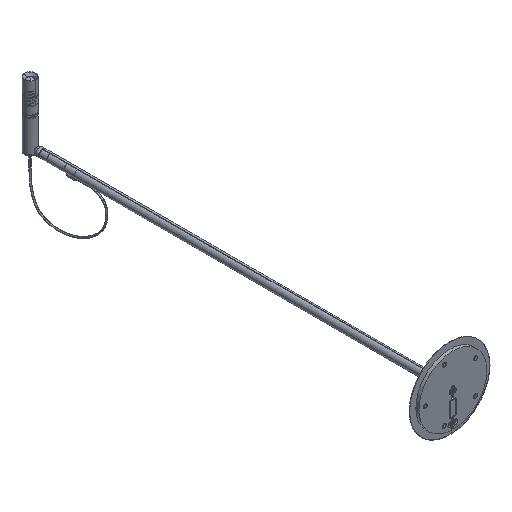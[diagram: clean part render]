
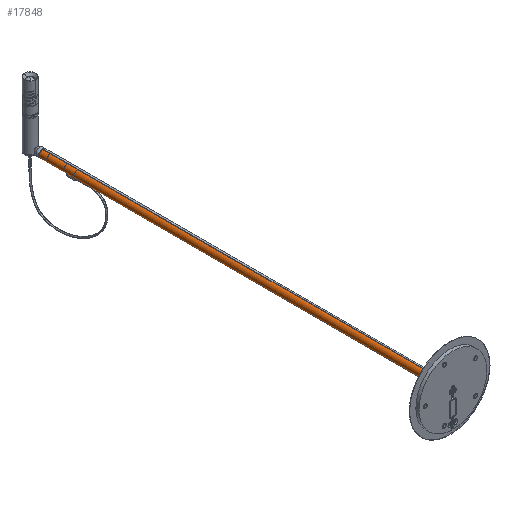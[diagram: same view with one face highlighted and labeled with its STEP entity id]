
A CAD part, isometric view. The second image highlights one B-rep face of the part: STEP entity #17848.
In plain terms, the highlighted cylindrical face has radius 12.5 mm (diameter 25 mm), a partial arc.
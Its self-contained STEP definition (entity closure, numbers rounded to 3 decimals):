
#73 = CARTESIAN_POINT ( 'NONE',  ( 3.888, -105.429, 11.881 ) ) ;
#83 = CARTESIAN_POINT ( 'NONE',  ( 4.1, -1317., 11.808 ) ) ;
#190 = CARTESIAN_POINT ( 'NONE',  ( 2.505, -107.357, 12.249 ) ) ;
#230 = CARTESIAN_POINT ( 'NONE',  ( 0.543, -85.827, 12.491 ) ) ;
#452 = CARTESIAN_POINT ( 'NONE',  ( 0., -1317., 0. ) ) ;
#919 = DIRECTION ( 'NONE',  ( 0., 1., 0. ) ) ;
#1988 = CIRCLE ( 'NONE', #7595, 12.5 ) ;
#2195 = CARTESIAN_POINT ( 'NONE',  ( 0., -1317., -12.5 ) ) ;
#2281 = VECTOR ( 'NONE', #16235, 1000. ) ;
#2623 = ORIENTED_EDGE ( 'NONE', *, *, #30272, .F. ) ;
#2771 = CYLINDRICAL_SURFACE ( 'NONE', #30055, 12.5 ) ;
#2809 = CARTESIAN_POINT ( 'NONE',  ( 1.825, -86.218, 12.369 ) ) ;
#3160 = EDGE_CURVE ( 'NONE', #8093, #16897, #34257, .T. ) ;
#3177 = LINE ( 'NONE', #12557, #30855 ) ;
#3534 = B_SPLINE_CURVE_WITH_KNOTS ( 'NONE', 3,
 ( #18598, #15900, #230, #8290, #10876, #2809, #13554, #21302, #31978, #24371, #24141, #32222, #13320, #21178, #26718, #23918, #29300, #24257 ),
 .UNSPECIFIED., .F., .F.,
 ( 4, 2, 2, 2, 2, 2, 2, 2, 4 ),
 ( 0.006, 0.007, 0.008, 0.009, 0.01, 0.01, 0.011, 0.012, 0.013 ),
 .UNSPECIFIED. ) ;
#3754 = CARTESIAN_POINT ( 'NONE',  ( 4.1, -104.1, 11.808 ) ) ;
#4136 = EDGE_CURVE ( 'NONE', #8093, #34116, #21154, .T. ) ;
#5297 = EDGE_CURVE ( 'NONE', #30318, #16897, #12321, .T. ) ;
#5847 = CARTESIAN_POINT ( 'NONE',  ( 0., 0., -12.5 ) ) ;
#6015 = ORIENTED_EDGE ( 'NONE', *, *, #13354, .T. ) ;
#6635 = VERTEX_POINT ( 'NONE', #31179 ) ;
#6760 = ORIENTED_EDGE ( 'NONE', *, *, #32260, .F. ) ;
#6817 = EDGE_CURVE ( 'NONE', #34527, #19269, #3534, .T. ) ;
#7089 = CARTESIAN_POINT ( 'NONE',  ( 0., -1317., 0. ) ) ;
#7536 = CARTESIAN_POINT ( 'NONE',  ( 0., -1317., -12.5 ) ) ;
#7595 = AXIS2_PLACEMENT_3D ( 'NONE', #14504, #14282, #11582 ) ;
#8093 = VERTEX_POINT ( 'NONE', #23724 ) ;
#8129 = CARTESIAN_POINT ( 'NONE',  ( 3.681, -105.925, 11.946 ) ) ;
#8290 = CARTESIAN_POINT ( 'NONE',  ( 1.07, -85.933, 12.457 ) ) ;
#8959 = DIRECTION ( 'NONE',  ( 0., 0., 1. ) ) ;
#9392 = LINE ( 'NONE', #2195, #2281 ) ;
#9399 = ORIENTED_EDGE ( 'NONE', *, *, #6817, .T. ) ;
#10475 = CARTESIAN_POINT ( 'NONE',  ( 1.821, -107.783, 12.369 ) ) ;
#10717 = FACE_OUTER_BOUND ( 'NONE', #27098, .T. ) ;
#10834 = CARTESIAN_POINT ( 'NONE',  ( 3.555, -106.16, 11.985 ) ) ;
#10876 = CARTESIAN_POINT ( 'NONE',  ( 1.326, -86.011, 12.432 ) ) ;
#11291 = CARTESIAN_POINT ( 'NONE',  ( 0., -108.2, 12.5 ) ) ;
#11582 = DIRECTION ( 'NONE',  ( 0., 0., 1. ) ) ;
#12321 = B_SPLINE_CURVE_WITH_KNOTS ( 'NONE', 3,
 ( #29260, #34795, #32412, #24450, #73, #8129, #10834, #29597, #13514, #26561, #190, #18916, #10475, #15861, #16926, #24675, #16685, #11291 ),
 .UNSPECIFIED., .F., .F.,
 ( 4, 2, 2, 2, 2, 2, 2, 2, 4 ),
 ( 0., 0.001, 0.002, 0.002, 0.003, 0.004, 0.005, 0.006, 0.006 ),
 .UNSPECIFIED. ) ;
#12557 = CARTESIAN_POINT ( 'NONE',  ( 0., -1317., 12.5 ) ) ;
#13320 = CARTESIAN_POINT ( 'NONE',  ( 3.682, -88.077, 11.946 ) ) ;
#13354 = EDGE_CURVE ( 'NONE', #34116, #33495, #9392, .T. ) ;
#13514 = CARTESIAN_POINT ( 'NONE',  ( 3.086, -106.813, 12.115 ) ) ;
#13554 = CARTESIAN_POINT ( 'NONE',  ( 2.061, -86.346, 12.331 ) ) ;
#14282 = DIRECTION ( 'NONE',  ( 0., 1., 0. ) ) ;
#14504 = CARTESIAN_POINT ( 'NONE',  ( 0., 0., 0. ) ) ;
#15861 = CARTESIAN_POINT ( 'NONE',  ( 1.328, -107.988, 12.432 ) ) ;
#15900 = CARTESIAN_POINT ( 'NONE',  ( 0.269, -85.8, 12.5 ) ) ;
#16235 = DIRECTION ( 'NONE',  ( 0., 1., 0. ) ) ;
#16685 = CARTESIAN_POINT ( 'NONE',  ( 0.27, -108.2, 12.5 ) ) ;
#16897 = VERTEX_POINT ( 'NONE', #22637 ) ;
#16926 = CARTESIAN_POINT ( 'NONE',  ( 1.068, -108.068, 12.457 ) ) ;
#17848 = ADVANCED_FACE ( 'Faccia1', ( #10717 ), #2771, .T. ) ;
#18055 = CARTESIAN_POINT ( 'NONE',  ( 0., -85.8, 12.5 ) ) ;
#18598 = CARTESIAN_POINT ( 'NONE',  ( 0., -85.8, 12.5 ) ) ;
#18916 = CARTESIAN_POINT ( 'NONE',  ( 2.057, -107.657, 12.332 ) ) ;
#19269 = VERTEX_POINT ( 'NONE', #27498 ) ;
#20701 = ORIENTED_EDGE ( 'NONE', *, *, #4136, .T. ) ;
#20847 = VECTOR ( 'NONE', #23884, 1000. ) ;
#21122 = AXIS2_PLACEMENT_3D ( 'NONE', #7089, #33485, #33605 ) ;
#21154 = CIRCLE ( 'NONE', #21122, 12.5 ) ;
#21178 = CARTESIAN_POINT ( 'NONE',  ( 3.887, -88.57, 11.881 ) ) ;
#21302 = CARTESIAN_POINT ( 'NONE',  ( 2.503, -86.642, 12.249 ) ) ;
#21497 = ORIENTED_EDGE ( 'NONE', *, *, #3160, .F. ) ;
#22106 = LINE ( 'NONE', #83, #20847 ) ;
#22637 = CARTESIAN_POINT ( 'NONE',  ( 0., -108.2, 12.5 ) ) ;
#22964 = CARTESIAN_POINT ( 'NONE',  ( 0., -1317., 12.5 ) ) ;
#23724 = CARTESIAN_POINT ( 'NONE',  ( 0., -1317., 12.5 ) ) ;
#23884 = DIRECTION ( 'NONE',  ( 0., 1., 0. ) ) ;
#23918 = CARTESIAN_POINT ( 'NONE',  ( 4.073, -89.355, 11.818 ) ) ;
#24141 = CARTESIAN_POINT ( 'NONE',  ( 3.257, -87.395, 12.069 ) ) ;
#24257 = CARTESIAN_POINT ( 'NONE',  ( 4.1, -89.9, 11.808 ) ) ;
#24371 = CARTESIAN_POINT ( 'NONE',  ( 3.088, -87.19, 12.114 ) ) ;
#24450 = CARTESIAN_POINT ( 'NONE',  ( 3.968, -105.168, 11.854 ) ) ;
#24675 = CARTESIAN_POINT ( 'NONE',  ( 0.537, -108.174, 12.491 ) ) ;
#25665 = DIRECTION ( 'NONE',  ( 0., 1., 0. ) ) ;
#26561 = CARTESIAN_POINT ( 'NONE',  ( 2.71, -107.188, 12.204 ) ) ;
#26718 = CARTESIAN_POINT ( 'NONE',  ( 3.966, -88.825, 11.854 ) ) ;
#27098 = EDGE_LOOP ( 'NONE', ( #20701, #6015, #2623, #6760, #9399, #27604, #33791, #21497 ) ) ;
#27323 = EDGE_CURVE ( 'NONE', #30318, #19269, #22106, .T. ) ;
#27498 = CARTESIAN_POINT ( 'NONE',  ( 4.1, -89.9, 11.808 ) ) ;
#27604 = ORIENTED_EDGE ( 'NONE', *, *, #27323, .F. ) ;
#29260 = CARTESIAN_POINT ( 'NONE',  ( 4.1, -104.1, 11.808 ) ) ;
#29300 = CARTESIAN_POINT ( 'NONE',  ( 4.1, -89.627, 11.808 ) ) ;
#29597 = CARTESIAN_POINT ( 'NONE',  ( 3.258, -106.604, 12.069 ) ) ;
#30055 = AXIS2_PLACEMENT_3D ( 'NONE', #452, #919, #8959 ) ;
#30272 = EDGE_CURVE ( 'NONE', #6635, #33495, #1988, .T. ) ;
#30318 = VERTEX_POINT ( 'NONE', #3754 ) ;
#30472 = VECTOR ( 'NONE', #25665, 1000. ) ;
#30855 = VECTOR ( 'NONE', #33724, 1000. ) ;
#31179 = CARTESIAN_POINT ( 'NONE',  ( 0., 0., 12.5 ) ) ;
#31978 = CARTESIAN_POINT ( 'NONE',  ( 2.711, -86.813, 12.204 ) ) ;
#32222 = CARTESIAN_POINT ( 'NONE',  ( 3.553, -87.837, 11.985 ) ) ;
#32260 = EDGE_CURVE ( 'NONE', #34527, #6635, #3177, .T. ) ;
#32412 = CARTESIAN_POINT ( 'NONE',  ( 4.073, -104.641, 11.818 ) ) ;
#33485 = DIRECTION ( 'NONE',  ( 0., 1., 0. ) ) ;
#33495 = VERTEX_POINT ( 'NONE', #5847 ) ;
#33605 = DIRECTION ( 'NONE',  ( 0., 0., 1. ) ) ;
#33724 = DIRECTION ( 'NONE',  ( 0., 1., 0. ) ) ;
#33791 = ORIENTED_EDGE ( 'NONE', *, *, #5297, .T. ) ;
#34116 = VERTEX_POINT ( 'NONE', #7536 ) ;
#34257 = LINE ( 'NONE', #22964, #30472 ) ;
#34527 = VERTEX_POINT ( 'NONE', #18055 ) ;
#34795 = CARTESIAN_POINT ( 'NONE',  ( 4.1, -104.373, 11.808 ) ) ;
